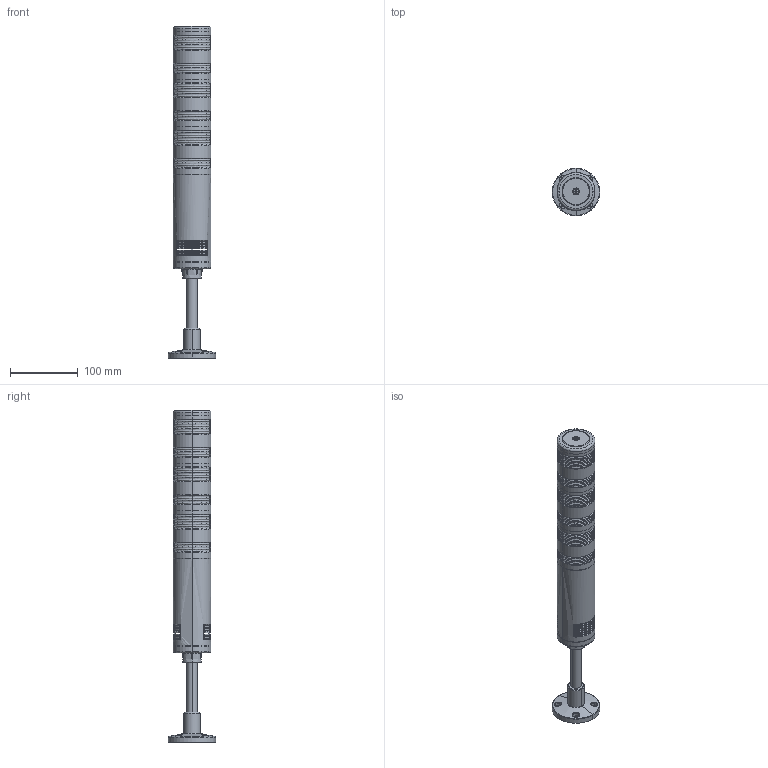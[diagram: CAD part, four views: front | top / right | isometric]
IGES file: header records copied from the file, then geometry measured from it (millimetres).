
Start section: IGES file generated by C3D Converter 1.6 translator by C3D Labs., translator version IGESOUT-5.1.
Global section: file name: C:\Users\Ìîíî\OneDrive\Desktop\øòóêè\ñâåòîñèãíàëüíàÿ êîëîííà 3\ñâåòîñèãíàëüíàÿ êîëîííà 3.igs; preprocessor: 1.0; author: Ìîíî; organization: unknown; date: -17760604:040009; units: millimetre
Bounding box: 70 x 70 x 489.94 mm (x, y, z)
Volume: 283242.1 mm3; surface area: 162729.5 mm2
Topology: 9 solids, 9 shells, 455 faces, 1160 edges, 721 vertices
Faces by surface type: revolution 291, bspline 164
